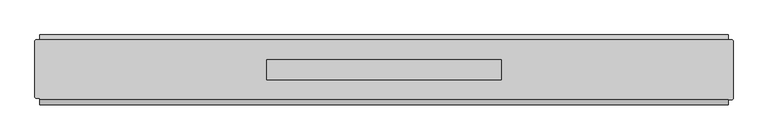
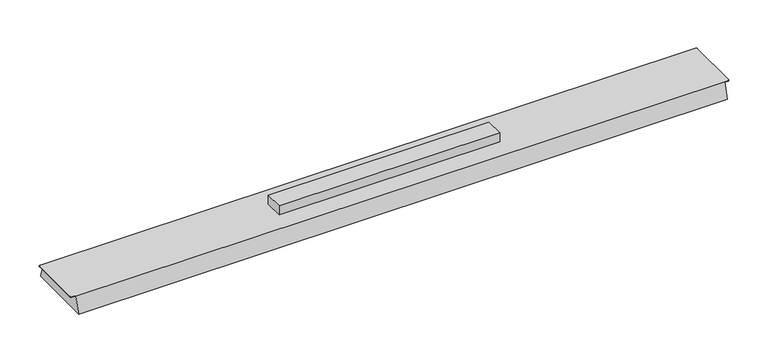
"""IFC4 building model written with IfcOpenShell, lengths in millimetres: light fixture geometry, GENILED_Светильник светодиодный_Retail Advanced : Retail Advanced 1034x105x25 40Вт Опал."""

from ifc_helpers import new_model, si_unit, frame, origin, place, context, project, spatial, circle_curve, source, transform, mapped, element, save
from ifc_brep_helpers import plane_surface, cylinder_surface, advanced_brep


def light_fixture_c778b539(model_context):
    return source(origin(), model_context, "Body", "AdvancedBrep", [
        advanced_brep(
        [(517.0, 45.0, 25.0), (-517.0, 45.0, 25.0), (-522.0, 45.0, 25.0), (-524.0, 43.0, 25.0), (-524.0, -40.5, 25.0), (-522.0, -42.5, 25.0), (-517.0, -42.5, 25.0), (-517.0, -45.0, 25.0), (517.0, -45.0, 25.0), (522.0, -45.0, 25.0), (524.0, -43.0, 25.0), (524.0, 43.0, 25.0), (522.0, 45.0, 25.0), (-176.0, 15.0, 25.0), (176.0, 15.0, 25.0), (176.0, -15.0, 25.0), (-176.0, -15.0, 25.0), (517.0, 52.5, 0.0), (517.0, -52.5, 0.0), (-517.0, -52.5, 0.0), (-517.0, 52.5, 0.0), (-517.0, -42.5, 24.0), (-517.0, 45.0, 24.0), (517.0, 45.0, 24.0), (517.0, -45.0, 24.0), (176.0, 15.0, 40.0), (-176.0, 15.0, 40.0), (-176.0, -15.0, 40.0), (176.0, -15.0, 40.0), (522.0, 45.0, 24.0), (524.0, 43.0, 24.0), (524.0, -43.0, 24.0), (522.0, -45.0, 24.0), (-522.0, -42.5, 24.0), (-524.0, -40.5, 24.0), (-524.0, 43.0, 24.0), (-522.0, 45.0, 24.0)],
        [
            (0, 1),
            (1, 2),
            (2, 3, circle_curve(frame((-522.0, 43.0, 25.0), z_axis=(0.0, 0.0, 1.0), x_axis=(1.0, 0.0, 0.0)), 2.0)),
            (3, 4),
            (4, 5, circle_curve(frame((-522.0, -40.5, 25.0), z_axis=(0.0, 0.0, 1.0), x_axis=(1.0, 0.0, 0.0)), 2.0)),
            (5, 6),
            (6, 7),
            (7, 8),
            (8, 9),
            (9, 10, circle_curve(frame((522.0, -43.0, 25.0), z_axis=(0.0, 0.0, 1.0), x_axis=(1.0, 0.0, 0.0)), 2.0)),
            (10, 11),
            (11, 12, circle_curve(frame((522.0, 43.0, 25.0), z_axis=(0.0, 0.0, 1.0), x_axis=(1.0, 0.0, 0.0)), 2.0)),
            (12, 0),
            (13, 14),
            (14, 15),
            (15, 16),
            (16, 13),
            (17, 18),
            (18, 19),
            (19, 20),
            (20, 17),
            (0, 17),
            (20, 1),
            (19, 7),
            (6, 21),
            (21, 22),
            (22, 1),
            (18, 8),
            (0, 23),
            (23, 24),
            (24, 8),
            (25, 26),
            (26, 27),
            (27, 28),
            (28, 25),
            (25, 14),
            (13, 26),
            (16, 27),
            (15, 28),
            (29, 30, circle_curve(frame((522.0, 43.0, 24.0), z_axis=(0.0, 0.0, -1.0), x_axis=(1.0, 0.0, 0.0)), 2.0)),
            (30, 31),
            (31, 32, circle_curve(frame((522.0, -43.0, 24.0), z_axis=(0.0, 0.0, -1.0), x_axis=(1.0, 0.0, 0.0)), 2.0)),
            (32, 24),
            (23, 29),
            (12, 29),
            (32, 9),
            (31, 10),
            (30, 11),
            (21, 33),
            (33, 34, circle_curve(frame((-522.0, -40.5, 24.0), z_axis=(0.0, 0.0, -1.0), x_axis=(1.0, 0.0, 0.0)), 2.0)),
            (34, 35),
            (35, 36, circle_curve(frame((-522.0, 43.0, 24.0), z_axis=(0.0, 0.0, -1.0), x_axis=(1.0, 0.0, 0.0)), 2.0)),
            (36, 22),
            (36, 2),
            (35, 3),
            (34, 4),
            (33, 5),
        ],
        [
            plane_surface(frame((0.0, 0.0, 25.0), z_axis=(0.0, 0.0, 1.0), x_axis=(-1.0, 0.0, 0.0))),
            plane_surface(frame((0.0, 0.0, 0.0), z_axis=(0.0, 0.0, -1.0), x_axis=(-1.0, 0.0, 0.0))),
            plane_surface(frame((0.0, 52.5, 0.0), z_axis=(0.0, 0.9578262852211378, 0.28734788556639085), x_axis=(-1.0, 0.0, 0.0))),
            plane_surface(frame((-517.0, 0.0, 0.0), z_axis=(-1.0, 0.0, 0.0), x_axis=(0.0, -1.0, 0.0))),
            plane_surface(frame((0.0, -52.5, 0.0), z_axis=(0.0, -0.957826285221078, 0.2873478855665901), x_axis=(1.0, 0.0, 0.0))),
            plane_surface(frame((517.0, 0.0, 0.0), z_axis=(1.0, 0.0, 0.0), x_axis=(0.0, 1.0, 0.0))),
            plane_surface(frame((-176.0, 15.0, 40.0), z_axis=(0.0, 0.0, 1.0), x_axis=(-1.0, 0.0, 0.0))),
            plane_surface(frame((176.0, 15.0, 40.0), z_axis=(0.0, 1.0, 0.0), x_axis=(0.0, 0.0, -1.0))),
            plane_surface(frame((-176.0, 15.0, 40.0), z_axis=(-1.0, 0.0, 0.0), x_axis=(0.0, 0.0, -1.0))),
            plane_surface(frame((-176.0, -15.0, 40.0), z_axis=(0.0, -1.0, 0.0), x_axis=(0.0, 0.0, -1.0))),
            plane_surface(frame((176.0, -15.0, 40.0), z_axis=(1.0, 0.0, 0.0), x_axis=(0.0, 0.0, -1.0))),
            plane_surface(frame((517.0, 45.0, 24.0), z_axis=(0.0, 0.0, -1.0), x_axis=(1.0, 0.0, 0.0))),
            plane_surface(frame((522.0, 45.0, 25.0), z_axis=(0.0, 1.0, 0.0), x_axis=(0.0, 0.0, -1.0))),
            plane_surface(frame((517.0, -45.0, 25.0), z_axis=(0.0, -1.0, 0.0), x_axis=(0.0, 0.0, -1.0))),
            cylinder_surface(frame((522.0, -43.0, 24.0), z_axis=(0.0, 0.0, 1.0), x_axis=(1.0, 0.0, 0.0)), 2.0),
            plane_surface(frame((524.0, -43.0, 25.0), z_axis=(1.0, 0.0, 0.0), x_axis=(0.0, 0.0, -1.0))),
            cylinder_surface(frame((522.0, 43.0, 24.0), z_axis=(0.0, 0.0, 1.0), x_axis=(1.0, 0.0, 0.0)), 2.0),
            plane_surface(frame((-522.0, 45.0, 24.0), z_axis=(0.0, 0.0, -1.0), x_axis=(1.0, 0.0, 0.0))),
            plane_surface(frame((-517.0, 45.0, 25.0), z_axis=(0.0, 1.0, 0.0), x_axis=(0.0, 0.0, -1.0))),
            cylinder_surface(frame((-522.0, 43.0, 24.0), z_axis=(0.0, 0.0, 1.0), x_axis=(1.0, 0.0, 0.0)), 2.0),
            plane_surface(frame((-524.0, 43.0, 25.0), z_axis=(-1.0, 0.0, 0.0), x_axis=(0.0, 0.0, -1.0))),
            cylinder_surface(frame((-522.0, -40.5, 24.0), z_axis=(0.0, 0.0, 1.0), x_axis=(1.0, 0.0, 0.0)), 2.0),
            plane_surface(frame((-522.0, -42.5, 25.0), z_axis=(0.0, -1.0, 0.0), x_axis=(0.0, 0.0, -1.0))),
        ],
        [
            (0, [[1, 2, 3, 4, 5, 6, 7, 8, 9, 10, 11, 12, 13], [14, 15, 16, 17]]),
            (1, [[18, 19, 20, 21]]),
            (2, [[-1, 22, -21, 23]]),
            (3, [[-20, 24, -7, 25, 26, 27, -23]]),
            (4, [[-8, -24, -19, 28]]),
            (5, [[-18, -22, 29, 30, 31, -28]]),
            (6, [[32, 33, 34, 35]]),
            (7, [[-32, 36, -14, 37]]),
            (8, [[-33, -37, -17, 38]]),
            (9, [[-34, -38, -16, 39]]),
            (10, [[-35, -39, -15, -36]]),
            (11, [[40, 41, 42, 43, -30, 44]]),
            (12, [[-13, 45, -44, -29]]),
            (13, [[-9, -31, -43, 46]]),
            (14, [[-10, -46, -42, 47]]),
            (15, [[-11, -47, -41, 48]]),
            (16, [[-12, -48, -40, -45]]),
            (17, [[49, 50, 51, 52, 53, -26]]),
            (18, [[-2, -27, -53, 54]]),
            (19, [[-3, -54, -52, 55]]),
            (20, [[-4, -55, -51, 56]]),
            (21, [[-5, -56, -50, 57]]),
            (22, [[-6, -57, -49, -25]]),
        ],
    ),
    ])


if __name__ == "__main__":
    model = new_model("IFC4")
    model_context = context("Model", 3, world=origin())
    ifc_project = project(units=[si_unit("LENGTHUNIT", "METRE", prefix="MILLI")], contexts=[model_context])
    site = spatial("IfcSite", under=ifc_project)
    building = spatial("IfcBuilding", under=site)
    placement = place(None, origin())
    light_fixture_shape = light_fixture_c778b539(model_context)
    element("IfcLightFixture", 1, ObjectType="GENILED_Светильник светодиодный_Retail Advanced : Retail Advanced 1034x105x25 40Вт Опал", at=placement, inside=building, context=model_context, shape_type="MappedRepresentation", body=[
        mapped(light_fixture_shape, transform((0.0, 0.0, 0.0), x_axis=(1.0, 0.0, 0.0), y_axis=(0.0, 1.0, 0.0), z_axis=(0.0, 0.0, 1.0))),
    ])
    save(model, "model.ifc")
